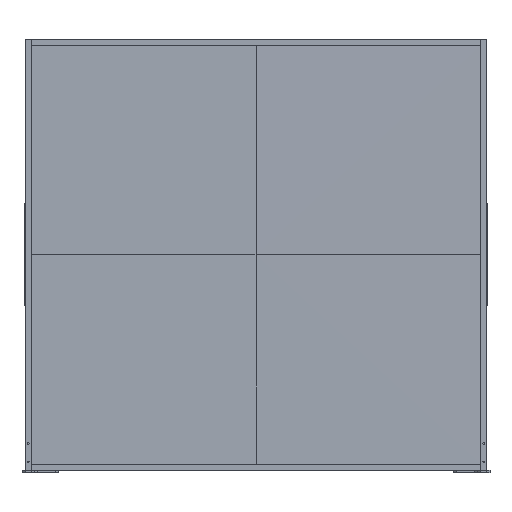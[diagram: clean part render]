
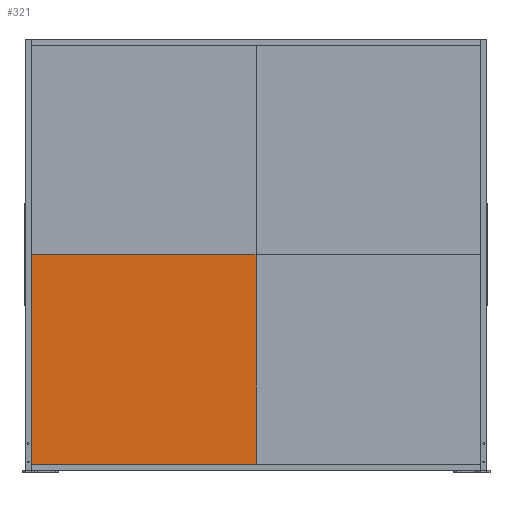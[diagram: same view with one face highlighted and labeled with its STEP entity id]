
A CAD part, front view. The second image highlights one B-rep face of the part: STEP entity #321.
In plain terms, the highlighted free-form (B-spline) face has degree [3, 3] with [6, 6] control points.
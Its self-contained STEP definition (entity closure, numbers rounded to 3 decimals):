
#37=B_SPLINE_SURFACE_WITH_KNOTS('',3,3,((#6831,#6832,#6833,#6834,#6835,
#6836),(#6837,#6838,#6839,#6840,#6841,#6842),(#6843,#6844,#6845,#6846,#6847,
#6848),(#6849,#6850,#6851,#6852,#6853,#6854),(#6855,#6856,#6857,#6858,#6859,
#6860),(#6861,#6862,#6863,#6864,#6865,#6866)),.UNSPECIFIED.,.F.,.F.,.F.,
(4,1,1,4),(4,1,1,4),(0.,60.,90.,430.),(-680.,-620.,-590.,0.),
 .UNSPECIFIED.);
#321=ADVANCED_FACE('',(#561),#37,.T.);
#561=FACE_OUTER_BOUND('',#821,.T.);
#821=EDGE_LOOP('',(#1777,#1778,#1779,#1780));
#1777=ORIENTED_EDGE('',*,*,#2429,.T.);
#1778=ORIENTED_EDGE('',*,*,#2430,.T.);
#1779=ORIENTED_EDGE('',*,*,#2431,.T.);
#1780=ORIENTED_EDGE('',*,*,#2432,.T.);
#2429=EDGE_CURVE('',#3408,#3409,#3009,.T.);
#2430=EDGE_CURVE('',#3409,#3410,#3010,.T.);
#2431=EDGE_CURVE('',#3410,#3411,#3011,.T.);
#2432=EDGE_CURVE('',#3411,#3408,#3012,.T.);
#3009=B_SPLINE_CURVE_WITH_KNOTS('',3,(#6984,#6985,#6986,#6987,#6988,#6989),
 .UNSPECIFIED.,.F.,.F.,(4,1,1,4),(0.,590.,620.,680.),.UNSPECIFIED.);
#3010=B_SPLINE_CURVE_WITH_KNOTS('',3,(#6990,#6991,#6992,#6993,#6994,#6995),
 .UNSPECIFIED.,.F.,.F.,(4,1,1,4),(0.,60.,90.,430.),
 .UNSPECIFIED.);
#3011=B_SPLINE_CURVE_WITH_KNOTS('',3,(#6996,#6997,#6998,#6999,#7000,#7001),
 .UNSPECIFIED.,.F.,.F.,(4,1,1,4),(0.,60.,90.,680.),.UNSPECIFIED.);
#3012=B_SPLINE_CURVE_WITH_KNOTS('',3,(#7002,#7003,#7004,#7005,#7006,#7007),
 .UNSPECIFIED.,.F.,.F.,(4,1,1,4),(0.,340.,370.,430.),.UNSPECIFIED.);
#3408=VERTEX_POINT('',#6975);
#3409=VERTEX_POINT('',#6976);
#3410=VERTEX_POINT('',#6977);
#3411=VERTEX_POINT('',#6978);
#6831=CARTESIAN_POINT('',(-730.,-8.,28.));
#6832=CARTESIAN_POINT('',(-730.,-8.,48.));
#6833=CARTESIAN_POINT('',(-730.,-8.,78.));
#6834=CARTESIAN_POINT('',(-730.,-8.,304.667));
#6835=CARTESIAN_POINT('',(-730.,-8.,511.333));
#6836=CARTESIAN_POINT('',(-730.,-8.,708.));
#6837=CARTESIAN_POINT('',(-710.,-8.,28.));
#6838=CARTESIAN_POINT('',(-710.,-11.,48.));
#6839=CARTESIAN_POINT('',(-710.,-11.,78.));
#6840=CARTESIAN_POINT('',(-710.,-11.,304.667));
#6841=CARTESIAN_POINT('',(-710.,-11.,511.333));
#6842=CARTESIAN_POINT('',(-710.,-11.,708.));
#6843=CARTESIAN_POINT('',(-680.,-8.,28.));
#6844=CARTESIAN_POINT('',(-680.,-11.,48.));
#6845=CARTESIAN_POINT('',(-680.,-11.,78.));
#6846=CARTESIAN_POINT('',(-680.,-11.,304.667));
#6847=CARTESIAN_POINT('',(-680.,-11.,511.333));
#6848=CARTESIAN_POINT('',(-680.,-11.,708.));
#6849=CARTESIAN_POINT('',(-436.667,-8.,28.));
#6850=CARTESIAN_POINT('',(-436.667,-11.,48.));
#6851=CARTESIAN_POINT('',(-436.667,-11.,78.));
#6852=CARTESIAN_POINT('',(-436.667,-11.,304.667));
#6853=CARTESIAN_POINT('',(-436.667,-11.,511.333));
#6854=CARTESIAN_POINT('',(-436.667,-11.,708.));
#6855=CARTESIAN_POINT('',(-213.333,-8.,28.));
#6856=CARTESIAN_POINT('',(-213.333,-11.,48.));
#6857=CARTESIAN_POINT('',(-213.333,-11.,78.));
#6858=CARTESIAN_POINT('',(-213.333,-11.,304.667));
#6859=CARTESIAN_POINT('',(-213.333,-11.,511.333));
#6860=CARTESIAN_POINT('',(-213.333,-11.,708.));
#6861=CARTESIAN_POINT('',(0.,-8.,28.));
#6862=CARTESIAN_POINT('',(0.,-11.,48.));
#6863=CARTESIAN_POINT('',(0.,-11.,78.));
#6864=CARTESIAN_POINT('',(0.,-11.,304.667));
#6865=CARTESIAN_POINT('',(0.,-11.,511.333));
#6866=CARTESIAN_POINT('',(0.,-11.,708.));
#6975=CARTESIAN_POINT('',(-730.,-8.,708.));
#6976=CARTESIAN_POINT('',(-730.,-8.,28.));
#6977=CARTESIAN_POINT('',(0.,-8.,28.));
#6978=CARTESIAN_POINT('',(0.,-11.,708.));
#6984=CARTESIAN_POINT('',(-730.,-8.,708.));
#6985=CARTESIAN_POINT('',(-730.,-8.,511.333));
#6986=CARTESIAN_POINT('',(-730.,-8.,304.667));
#6987=CARTESIAN_POINT('',(-730.,-8.,78.));
#6988=CARTESIAN_POINT('',(-730.,-8.,48.));
#6989=CARTESIAN_POINT('',(-730.,-8.,28.));
#6990=CARTESIAN_POINT('',(-730.,-8.,28.));
#6991=CARTESIAN_POINT('',(-710.,-8.,28.));
#6992=CARTESIAN_POINT('',(-680.,-8.,28.));
#6993=CARTESIAN_POINT('',(-436.667,-8.,28.));
#6994=CARTESIAN_POINT('',(-213.333,-8.,28.));
#6995=CARTESIAN_POINT('',(0.,-8.,28.));
#6996=CARTESIAN_POINT('',(0.,-8.,28.));
#6997=CARTESIAN_POINT('',(0.,-11.,48.));
#6998=CARTESIAN_POINT('',(0.,-11.,78.));
#6999=CARTESIAN_POINT('',(0.,-11.,304.667));
#7000=CARTESIAN_POINT('',(0.,-11.,511.333));
#7001=CARTESIAN_POINT('',(0.,-11.,708.));
#7002=CARTESIAN_POINT('',(0.,-11.,708.));
#7003=CARTESIAN_POINT('',(-213.333,-11.,708.));
#7004=CARTESIAN_POINT('',(-436.667,-11.,708.));
#7005=CARTESIAN_POINT('',(-680.,-11.,708.));
#7006=CARTESIAN_POINT('',(-710.,-11.,708.));
#7007=CARTESIAN_POINT('',(-730.,-8.,708.));
